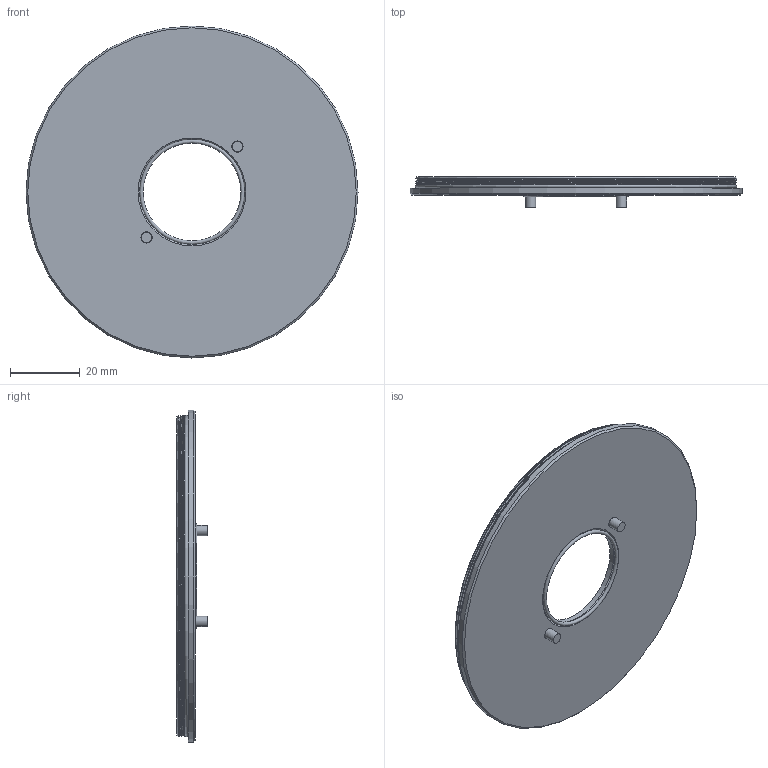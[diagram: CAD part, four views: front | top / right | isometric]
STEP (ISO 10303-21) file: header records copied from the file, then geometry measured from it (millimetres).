
FILE_DESCRIPTION(/* description */ ('Unknown'),/* implementation_level */ '2;1');
FILE_NAME(/* name */ '11704311_Tube Adapter D M92 hard anodized',/* time_stamp */ '2021-11-10T14:36:58+01:00',/* author */ ('Unknown'),/* organization */ ('Baumer'),/* preprocessor_version */ 'ST-DEVELOPER v16.7',/* originating_system */ 'Solid Edge',/* authorisation */ 'Unknown');
FILE_SCHEMA (('AUTOMOTIVE_DESIGN {1 0 10303 214 3 1 1}'));
Length unit declared in the file: millimetre
Products named in the file (6): D0001008388-BG Tube Adapter D M92 hard anodized; O-Ring 28.00x1.00-EPDM-70 Shore A; D0001008217-Adapter F3 IP - Schutzkappe D95; O-Ring 2.50x0.80-NBR-70 Shore A; 11036412; O-Ring 90x1.0 EPDM
Assembly tree (7 placements, depth 2):
  D0001008388-BG Tube Adapter D M92 hard anodized
    O-Ring 28.00x1.00-EPDM-70 Shore A
    D0001008217-Adapter F3 IP - Schutzkappe D95
    O-Ring 2.50x0.80-NBR-70 Shore A  x2
    11036412  x2
    O-Ring 90x1.0 EPDM
Bounding box: 95 x 8.75 x 95 mm (x, y, z)
Volume: 17030.7 mm3; surface area: 17350.3 mm2
Topology: 7 solids, 7 shells, 54 faces, 108 edges, 69 vertices
Faces by surface type: plane 28, cylinder 14, torus 6, cone 4, bspline 2
Full cylindrical faces by diameter (mm): 3 x2, 3.2 x2, 4.4 x2, 5.5 x2, 28.8 x1, 89 x1, 90.5 x1, 95 x1
Entity records: 2079 total; most frequent: CARTESIAN_POINT 1086, DIRECTION 170, ORIENTED_EDGE 112, AXIS2_PLACEMENT_3D 76, FACE_BOUND 68, EDGE_LOOP 65, EDGE_CURVE 56, VERTEX_POINT 48
